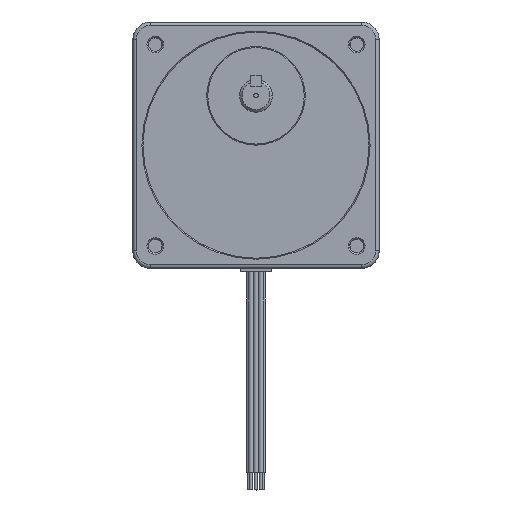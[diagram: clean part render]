
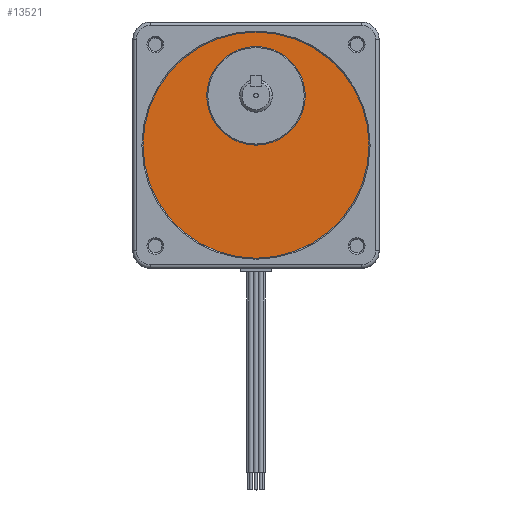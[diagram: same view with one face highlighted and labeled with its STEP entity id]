
A CAD part, top view. The second image highlights one B-rep face of the part: STEP entity #13521.
In plain terms, the highlighted planar face has unit normal (0, 0, 1).
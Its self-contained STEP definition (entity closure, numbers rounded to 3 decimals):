
#13211 = VERTEX_POINT ( 'NONE', #18901 ) ;
#13228 = VERTEX_POINT ( 'NONE', #18959 ) ;
#13230 = VERTEX_POINT ( 'NONE', #18917 ) ;
#13233 = VERTEX_POINT ( 'NONE', #18958 ) ;
#13234 = EDGE_CURVE ( 'NONE', #13233, #13211, #18955, .T. ) ;
#13238 = EDGE_CURVE ( 'NONE', #13230, #13228, #18960, .T. ) ;
#13521 = ADVANCED_FACE ( 'NONE', ( #19815, #19771 ), #19850, .T. ) ;
#13525 = EDGE_LOOP ( 'NONE', ( #13530, #13535 ) ) ;
#13528 = ORIENTED_EDGE ( 'NONE', *, *, #13532, .F. ) ;
#13530 = ORIENTED_EDGE ( 'NONE', *, *, #13533, .T. ) ;
#13532 = EDGE_CURVE ( 'NONE', #13228, #13230, #19833, .T. ) ;
#13533 = EDGE_CURVE ( 'NONE', #13211, #13233, #19875, .T. ) ;
#13534 = ORIENTED_EDGE ( 'NONE', *, *, #13238, .F. ) ;
#13535 = ORIENTED_EDGE ( 'NONE', *, *, #13234, .T. ) ;
#13536 = EDGE_LOOP ( 'NONE', ( #13528, #13534 ) ) ;
#18901 = CARTESIAN_POINT ( 'NONE',  ( 41.275, 0., 59. ) ) ;
#18917 = CARTESIAN_POINT ( 'NONE',  ( 17.996, 18.009, 59. ) ) ;
#18945 = DIRECTION ( 'NONE',  ( 1., 0., 0. ) ) ;
#18946 = DIRECTION ( 'NONE',  ( 0., 0., 1. ) ) ;
#18947 = AXIS2_PLACEMENT_3D ( 'NONE', #18964, #18946, #18945 ) ;
#18955 = CIRCLE ( 'NONE', #18947, 41.275 ) ;
#18958 = CARTESIAN_POINT ( 'NONE',  ( -41.275, 0., 59. ) ) ;
#18959 = CARTESIAN_POINT ( 'NONE',  ( -17.996, 18.009, 59. ) ) ;
#18960 = CIRCLE ( 'NONE', #18971, 17.996 ) ;
#18964 = CARTESIAN_POINT ( 'NONE',  ( 0., 0., 59. ) ) ;
#18971 = AXIS2_PLACEMENT_3D ( 'NONE', #18987, #19022, #19021 ) ;
#18987 = CARTESIAN_POINT ( 'NONE',  ( 0., 18.009, 59. ) ) ;
#19021 = DIRECTION ( 'NONE',  ( 1., 0., 0. ) ) ;
#19022 = DIRECTION ( 'NONE',  ( 0., 0., 1. ) ) ;
#19771 = FACE_BOUND ( 'NONE', #13536, .T. ) ;
#19815 = FACE_OUTER_BOUND ( 'NONE', #13525, .T. ) ;
#19833 = CIRCLE ( 'NONE', #19867, 17.996 ) ;
#19846 = DIRECTION ( 'NONE',  ( 1., 0., 0. ) ) ;
#19847 = DIRECTION ( 'NONE',  ( 0., 0., 1. ) ) ;
#19848 = CARTESIAN_POINT ( 'NONE',  ( 0., 0., 59. ) ) ;
#19849 = AXIS2_PLACEMENT_3D ( 'NONE', #19848, #19847, #19846 ) ;
#19850 = PLANE ( 'NONE',  #19849 ) ;
#19861 = DIRECTION ( 'NONE',  ( 1., 0., 0. ) ) ;
#19862 = DIRECTION ( 'NONE',  ( 0., 0., 1. ) ) ;
#19864 = DIRECTION ( 'NONE',  ( 1., 0., 0. ) ) ;
#19865 = DIRECTION ( 'NONE',  ( 0., 0., 1. ) ) ;
#19866 = CARTESIAN_POINT ( 'NONE',  ( 0., 18.009, 59. ) ) ;
#19867 = AXIS2_PLACEMENT_3D ( 'NONE', #19866, #19865, #19864 ) ;
#19873 = CARTESIAN_POINT ( 'NONE',  ( 0., 0., 59. ) ) ;
#19875 = CIRCLE ( 'NONE', #19877, 41.275 ) ;
#19877 = AXIS2_PLACEMENT_3D ( 'NONE', #19873, #19862, #19861 ) ;
